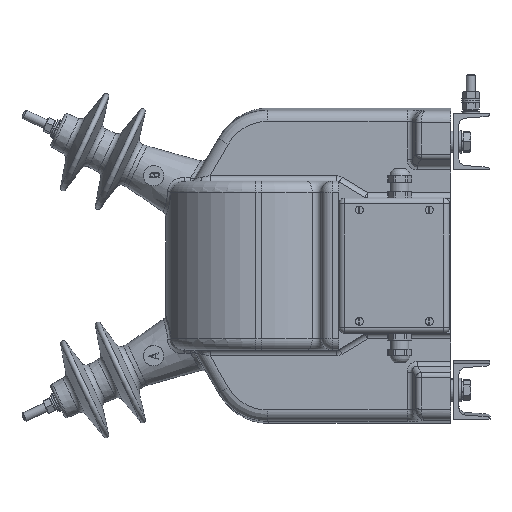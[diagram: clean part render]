
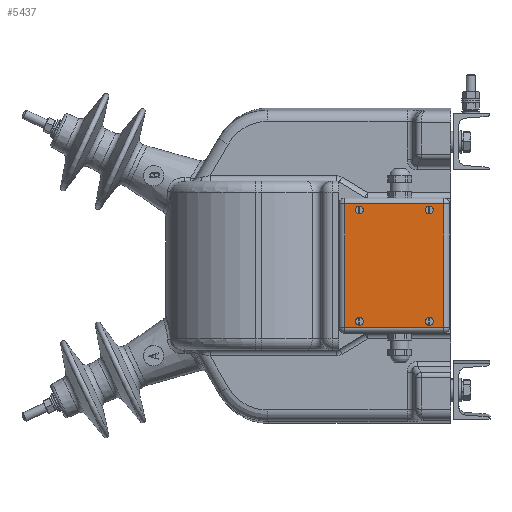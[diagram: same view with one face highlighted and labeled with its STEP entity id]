
A CAD part, left-side view. The second image highlights one B-rep face of the part: STEP entity #5437.
In plain terms, the highlighted planar face has unit normal (-1, 0, 0) as drawn and (0, 0, 1) by its records, which use the part's own axes.
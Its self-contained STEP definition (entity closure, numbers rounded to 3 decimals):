
#5437=ADVANCED_FACE('',(#17247,#17249,#17251,#17253,#17255),#17257,.T.);
#17247=FACE_BOUND('',#17248,.T.);
#17248=EDGE_LOOP('',(#27565,#27566,#27567,#27568));
#17249=FACE_BOUND('',#17250,.T.);
#17250=EDGE_LOOP('',(#27569));
#17251=FACE_BOUND('',#17252,.T.);
#17252=EDGE_LOOP('',(#27570));
#17253=FACE_BOUND('',#17254,.T.);
#17254=EDGE_LOOP('',(#27571));
#17255=FACE_BOUND('',#17256,.T.);
#17256=EDGE_LOOP('',(#27572));
#17257=PLANE('',#17258);
#17258=AXIS2_PLACEMENT_3D('',#17259,#17260,#17261);
#17259=CARTESIAN_POINT('',(0.,0.,7.5));
#17260=DIRECTION('',(0.,0.,1.));
#17261=DIRECTION('',(1.,0.,0.));
#27565=ORIENTED_EDGE('',*,*,#31171,.T.);
#27566=ORIENTED_EDGE('',*,*,#31172,.T.);
#27567=ORIENTED_EDGE('',*,*,#31173,.T.);
#27568=ORIENTED_EDGE('',*,*,#31174,.T.);
#27569=ORIENTED_EDGE('',*,*,#31175,.T.);
#27570=ORIENTED_EDGE('',*,*,#31176,.T.);
#27571=ORIENTED_EDGE('',*,*,#31177,.T.);
#27572=ORIENTED_EDGE('',*,*,#31178,.T.);
#31171=EDGE_CURVE('',#34124,#34125,#34126,.T.);
#31172=EDGE_CURVE('',#34125,#34127,#34128,.T.);
#31173=EDGE_CURVE('',#34127,#34129,#34130,.T.);
#31174=EDGE_CURVE('',#34129,#34124,#34131,.T.);
#31175=EDGE_CURVE('',#34132,#34132,#34133,.T.);
#31176=EDGE_CURVE('',#34134,#34134,#34135,.T.);
#31177=EDGE_CURVE('',#34136,#34136,#34137,.T.);
#31178=EDGE_CURVE('',#34138,#34138,#34139,.T.);
#34124=VERTEX_POINT('',#41830);
#34125=VERTEX_POINT('',#41831);
#34126=LINE('',#41832,#41833);
#34127=VERTEX_POINT('',#41835);
#34128=LINE('',#41836,#41837);
#34129=VERTEX_POINT('',#41839);
#34130=LINE('',#41840,#41841);
#34131=LINE('',#41843,#41844);
#34132=VERTEX_POINT('',#41846);
#34133=CIRCLE('',#41847,2.5);
#34134=VERTEX_POINT('',#41851);
#34135=CIRCLE('',#41852,2.5);
#34136=VERTEX_POINT('',#41856);
#34137=CIRCLE('',#41857,2.5);
#34138=VERTEX_POINT('',#41861);
#34139=CIRCLE('',#41862,2.5);
#41830=CARTESIAN_POINT('',(55.,-44.,7.5));
#41831=CARTESIAN_POINT('',(55.,44.,7.5));
#41832=CARTESIAN_POINT('',(55.,-44.,7.5));
#41833=VECTOR('',#41834,1.);
#41834=DIRECTION('',(0.,1.,0.));
#41835=CARTESIAN_POINT('',(-55.,44.,7.5));
#41836=CARTESIAN_POINT('',(55.,44.,7.5));
#41837=VECTOR('',#41838,1.);
#41838=DIRECTION('',(-1.,0.,0.));
#41839=CARTESIAN_POINT('',(-55.,-44.,7.5));
#41840=CARTESIAN_POINT('',(-55.,44.,7.5));
#41841=VECTOR('',#41842,1.);
#41842=DIRECTION('',(0.,-1.,0.));
#41843=CARTESIAN_POINT('',(-55.,-44.,7.5));
#41844=VECTOR('',#41845,1.);
#41845=DIRECTION('',(1.,0.,0.));
#41846=CARTESIAN_POINT('',(-47.,-31.,7.5));
#41847=AXIS2_PLACEMENT_3D('',#41848,#41849,#41850);
#41848=CARTESIAN_POINT('',(-49.5,-31.,7.5));
#41849=DIRECTION('',(-0.,-0.,-1.));
#41850=DIRECTION('',(1.,0.,0.));
#41851=CARTESIAN_POINT('',(52.,-31.,7.5));
#41852=AXIS2_PLACEMENT_3D('',#41853,#41854,#41855);
#41853=CARTESIAN_POINT('',(49.5,-31.,7.5));
#41854=DIRECTION('',(-0.,-0.,-1.));
#41855=DIRECTION('',(1.,0.,0.));
#41856=CARTESIAN_POINT('',(52.,31.,7.5));
#41857=AXIS2_PLACEMENT_3D('',#41858,#41859,#41860);
#41858=CARTESIAN_POINT('',(49.5,31.,7.5));
#41859=DIRECTION('',(-0.,-0.,-1.));
#41860=DIRECTION('',(1.,0.,0.));
#41861=CARTESIAN_POINT('',(-47.,31.,7.5));
#41862=AXIS2_PLACEMENT_3D('',#41863,#41864,#41865);
#41863=CARTESIAN_POINT('',(-49.5,31.,7.5));
#41864=DIRECTION('',(-0.,-0.,-1.));
#41865=DIRECTION('',(1.,0.,0.));
